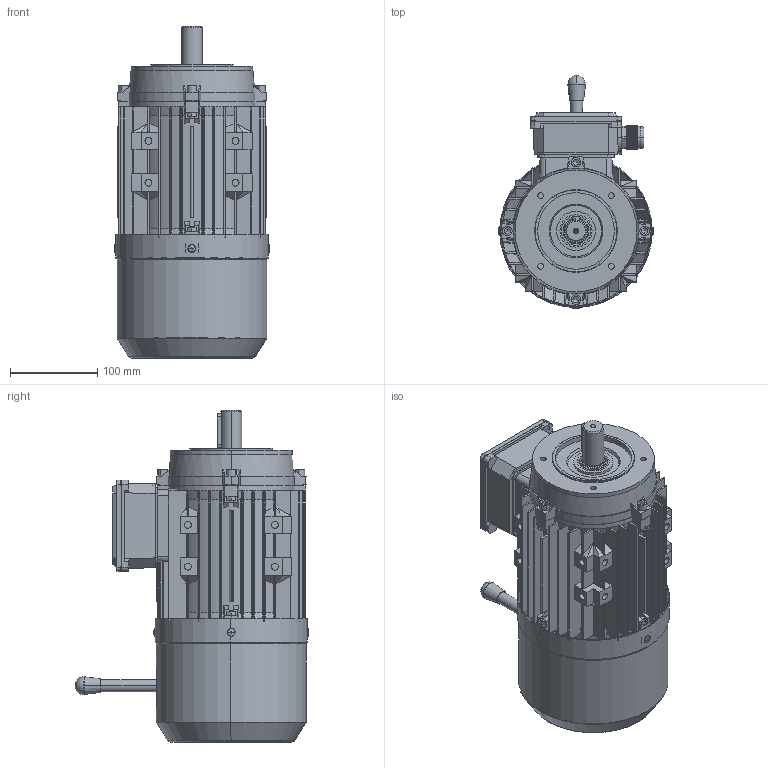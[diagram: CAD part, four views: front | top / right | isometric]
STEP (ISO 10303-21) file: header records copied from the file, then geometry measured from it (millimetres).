
FILE_DESCRIPTION (( 'STEP AP214' ), '1' );
FILE_NAME ('BCL0110.09A414.11.STEP', '2020-04-22T14:46:13', ( '' ), ( '' ), 'SwSTEP 2.0', 'SolidWorks 2019', '' );
FILE_SCHEMA (( 'AUTOMOTIVE_DESIGN' ));
Length unit declared in the file: millimetre
Products named in the file (1): BCL0110.09A414.11
Bounding box: 178.18 x 268.48 x 381.41 mm (x, y, z)
Volume: 1309411.9 mm3; surface area: 805333.8 mm2
Topology: 30 solids, 30 shells, 2878 faces, 7525 edges, 4757 vertices
Faces by surface type: plane 1910, cylinder 613, cone 233, torus 68, sphere 44, bspline 10
Entity records: 125800 total; most frequent: CARTESIAN_POINT 23591, ORIENTED_EDGE 14934, DIRECTION 13966, EDGE_CURVE 7467, VERTEX_POINT 4755, LINE 4684, VECTOR 4684, AXIS2_PLACEMENT_3D 4641
